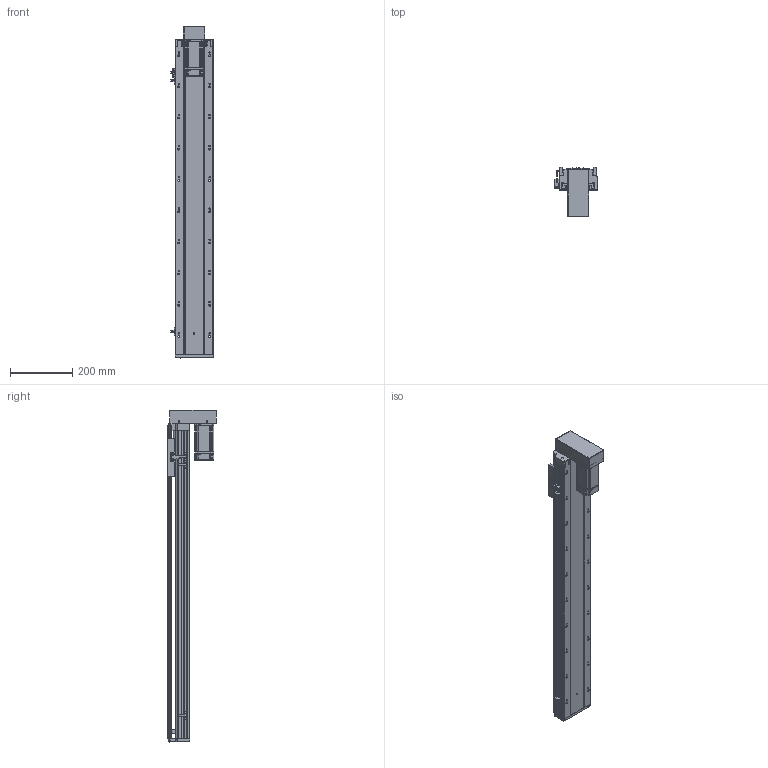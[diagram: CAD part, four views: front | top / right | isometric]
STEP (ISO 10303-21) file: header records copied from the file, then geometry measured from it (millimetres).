
FILE_DESCRIPTION (( 'STEP AP203' ), '1' );
FILE_NAME ('RY120-L2020-300-BK.SLDASM_800.step', '2021-03-12T06:58:06', ( '盈信电脑' ), ( '东莞市道滘镇水果街19号' ), 'SwSTEP 2.0', 'SolidWorks 2012', '' );
FILE_SCHEMA (( 'CONFIG_CONTROL_DESIGN' ));
Length unit declared in the file: millimetre
Products named in the file (15): RY120-400W萇儂傷-BK; RY120-L2020-300-BK.SLDASM_800; RY120下折折电机安装板; 15; RY120转拆电端丝杆支撑座(20丝杆，7002轴承); RY120狟殏萇儂欶; 侂狟400W侜督萇儂; RY120外置感应片(140共用）; 滅袉蝶18-24; 覜茼ん672; 滅袉蝶18-10; RY120-300-BK蛌殏倰第奻裔啣_800; RY120-300-BK蛌殏倰第菁釱_800; RY120綴裔啣; RY120臏賑輸(20蹟譫)
Assembly tree (17 placements, depth 4):
  RY120-L2020-300-BK.SLDASM_800
    RY120-300-BK蛌殏倰第菁釱_800
    RY120-300-BK蛌殏倰第奻裔啣_800
    RY120臏賑輸(20蹟譫)
    RY120綴裔啣
    覜茼ん672  x3
    滅袉蝶18-10
    滅袉蝶18-24  x2
    RY120外置感应片(140共用）
    RY120转拆电端丝杆支撑座(20丝杆，7002轴承)
    RY120-400W萇儂傷-BK
      侂狟400W侜督萇儂
        15
      RY120狟殏萇儂欶
      RY120下折折电机安装板
Bounding box: 135.7 x 159.5 x 1064 mm (x, y, z)
Volume: 3064651.6 mm3; surface area: 1124541.8 mm2
Topology: 16 solids, 16 shells, 2566 faces, 7091 edges, 4546 vertices
Faces by surface type: plane 1246, cylinder 990, cone 225, bspline 105
Entity records: 86213 total; most frequent: CARTESIAN_POINT 24857, ORIENTED_EDGE 12878, DIRECTION 11767, EDGE_CURVE 6439, VERTEX_POINT 4214, AXIS2_PLACEMENT_3D 3933, LINE 3901, VECTOR 3901
